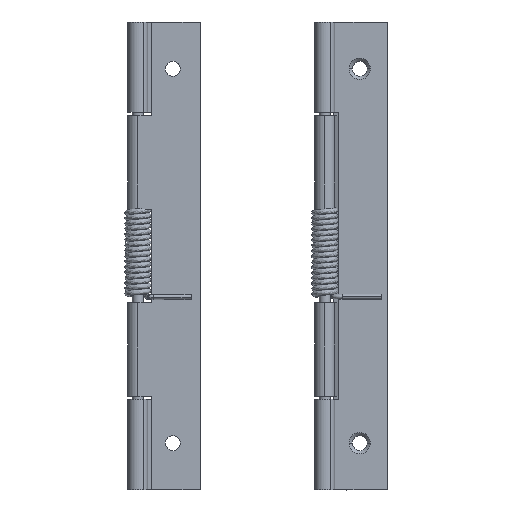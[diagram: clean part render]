
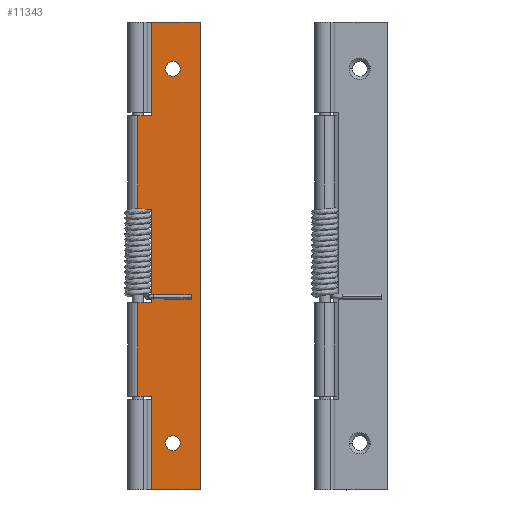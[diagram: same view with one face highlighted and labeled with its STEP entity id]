
A CAD part, top view. The second image highlights one B-rep face of the part: STEP entity #11343.
In plain terms, the highlighted planar face has unit normal (0, 0, 1) as drawn and (0, 0, -1) by its records, which use the part's own axes.
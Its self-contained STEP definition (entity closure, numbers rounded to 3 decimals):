
#10606=CARTESIAN_POINT('',(-2.7,-7.5,-0.35));
#10607=VERTEX_POINT('',#10606);
#10615=CARTESIAN_POINT('',(-2.7,-22.5,-0.35));
#10616=VERTEX_POINT('',#10615);
#10617=CARTESIAN_POINT('',(-2.7,-22.5,-0.35));
#10618=DIRECTION('',(0.0,1.0,0.0));
#10619=VECTOR('',#10618,15.0);
#10620=LINE('',#10617,#10619);
#10621=EDGE_CURVE('',#10616,#10607,#10620,.T.);
#10831=CARTESIAN_POINT('',(-2.7,22.5,-0.35));
#10832=VERTEX_POINT('',#10831);
#10840=CARTESIAN_POINT('',(-2.7,7.5,-0.35));
#10841=VERTEX_POINT('',#10840);
#10842=CARTESIAN_POINT('',(-2.7,7.5,-0.35));
#10843=DIRECTION('',(0.0,1.0,0.0));
#10844=VECTOR('',#10843,15.0);
#10845=LINE('',#10842,#10844);
#10846=EDGE_CURVE('',#10841,#10832,#10845,.T.);
#10896=CARTESIAN_POINT('',(4.1,30.0,-0.35));
#10897=VERTEX_POINT('',#10896);
#10906=CARTESIAN_POINT('',(1.7,30.0,-0.35));
#10907=VERTEX_POINT('',#10906);
#10908=CARTESIAN_POINT('',(2.9,30.0,-0.35));
#10909=DIRECTION('',(0.0,0.0,1.0));
#10910=DIRECTION('',(1.0,0.0,0.0));
#10911=AXIS2_PLACEMENT_3D('',#10908,#10909,#10910);
#10912=CIRCLE('',#10911,1.2);
#10913=EDGE_CURVE('',#10907,#10897,#10912,.T.);
#10970=CARTESIAN_POINT('',(4.1,-30.0,-0.35));
#10971=VERTEX_POINT('',#10970);
#10980=CARTESIAN_POINT('',(1.7,-30.0,-0.35));
#10981=VERTEX_POINT('',#10980);
#10982=CARTESIAN_POINT('',(2.9,-30.0,-0.35));
#10983=DIRECTION('',(0.0,0.0,1.0));
#10984=DIRECTION('',(1.0,0.0,0.0));
#10985=AXIS2_PLACEMENT_3D('',#10982,#10983,#10984);
#10986=CIRCLE('',#10985,1.2);
#10987=EDGE_CURVE('',#10981,#10971,#10986,.T.);
#11071=CARTESIAN_POINT('',(2.9,-30.0,-0.35));
#11072=DIRECTION('',(0.0,0.0,1.0));
#11073=DIRECTION('',(1.0,0.0,0.0));
#11074=AXIS2_PLACEMENT_3D('',#11071,#11072,#11073);
#11075=CIRCLE('',#11074,1.2);
#11076=EDGE_CURVE('',#10971,#10981,#11075,.T.);
#11113=CARTESIAN_POINT('',(2.9,30.0,-0.35));
#11114=DIRECTION('',(0.0,0.0,1.0));
#11115=DIRECTION('',(1.0,0.0,0.0));
#11116=AXIS2_PLACEMENT_3D('',#11113,#11114,#11115);
#11117=CIRCLE('',#11116,1.2);
#11118=EDGE_CURVE('',#10897,#10907,#11117,.T.);
#11128=CARTESIAN_POINT('',(-0.5,-22.5,-0.35));
#11129=VERTEX_POINT('',#11128);
#11130=CARTESIAN_POINT('',(-0.5,-22.5,-0.35));
#11131=DIRECTION('',(-1.0,0.0,0.0));
#11132=VECTOR('',#11131,2.2);
#11133=LINE('',#11130,#11132);
#11134=EDGE_CURVE('',#11129,#10616,#11133,.T.);
#11194=CARTESIAN_POINT('',(-0.5,22.5,-0.35));
#11195=VERTEX_POINT('',#11194);
#11202=CARTESIAN_POINT('',(-2.7,22.5,-0.35));
#11203=DIRECTION('',(1.0,0.0,0.0));
#11204=VECTOR('',#11203,2.2);
#11205=LINE('',#11202,#11204);
#11206=EDGE_CURVE('',#10832,#11195,#11205,.T.);
#11264=CARTESIAN_POINT('',(1.312,0.0,-0.35));
#11265=DIRECTION('',(0.0,0.0,1.0));
#11266=DIRECTION('',(1.0,0.0,0.0));
#11267=AXIS2_PLACEMENT_3D('',#11264,#11265,#11266);
#11268=PLANE('',#11267);
#11269=ORIENTED_EDGE('',*,*,#10621,.T.);
#11270=CARTESIAN_POINT('',(-0.5,-7.5,-0.35));
#11271=VERTEX_POINT('',#11270);
#11272=CARTESIAN_POINT('',(-2.7,-7.5,-0.35));
#11273=DIRECTION('',(1.0,0.0,0.0));
#11274=VECTOR('',#11273,2.2);
#11275=LINE('',#11272,#11274);
#11276=EDGE_CURVE('',#10607,#11271,#11275,.T.);
#11277=ORIENTED_EDGE('',*,*,#11276,.T.);
#11278=CARTESIAN_POINT('',(-0.5,7.5,-0.35));
#11279=VERTEX_POINT('',#11278);
#11280=CARTESIAN_POINT('',(-0.5,-7.5,-0.35));
#11281=DIRECTION('',(0.0,1.0,0.0));
#11282=VECTOR('',#11281,15.);
#11283=LINE('',#11280,#11282);
#11284=EDGE_CURVE('',#11271,#11279,#11283,.T.);
#11285=ORIENTED_EDGE('',*,*,#11284,.T.);
#11286=CARTESIAN_POINT('',(-0.5,7.5,-0.35));
#11287=DIRECTION('',(-1.0,0.0,0.0));
#11288=VECTOR('',#11287,2.2);
#11289=LINE('',#11286,#11288);
#11290=EDGE_CURVE('',#11279,#10841,#11289,.T.);
#11291=ORIENTED_EDGE('',*,*,#11290,.T.);
#11292=ORIENTED_EDGE('',*,*,#10846,.T.);
#11293=ORIENTED_EDGE('',*,*,#11206,.T.);
#11294=CARTESIAN_POINT('',(-0.5,37.5,-0.35));
#11295=VERTEX_POINT('',#11294);
#11296=CARTESIAN_POINT('',(-0.5,22.5,-0.35));
#11297=DIRECTION('',(0.0,1.0,0.0));
#11298=VECTOR('',#11297,15.);
#11299=LINE('',#11296,#11298);
#11300=EDGE_CURVE('',#11195,#11295,#11299,.T.);
#11301=ORIENTED_EDGE('',*,*,#11300,.T.);
#11302=CARTESIAN_POINT('',(7.3,37.5,-0.35));
#11303=VERTEX_POINT('',#11302);
#11304=CARTESIAN_POINT('',(-0.5,37.5,-0.35));
#11305=DIRECTION('',(1.0,0.0,0.0));
#11306=VECTOR('',#11305,7.8);
#11307=LINE('',#11304,#11306);
#11308=EDGE_CURVE('',#11295,#11303,#11307,.T.);
#11309=ORIENTED_EDGE('',*,*,#11308,.T.);
#11310=CARTESIAN_POINT('',(7.3,-37.5,-0.35));
#11311=VERTEX_POINT('',#11310);
#11312=CARTESIAN_POINT('',(7.3,37.5,-0.35));
#11313=DIRECTION('',(0.0,-1.0,0.0));
#11314=VECTOR('',#11313,75.0);
#11315=LINE('',#11312,#11314);
#11316=EDGE_CURVE('',#11303,#11311,#11315,.T.);
#11317=ORIENTED_EDGE('',*,*,#11316,.T.);
#11318=CARTESIAN_POINT('',(-0.5,-37.5,-0.35));
#11319=VERTEX_POINT('',#11318);
#11320=CARTESIAN_POINT('',(7.3,-37.5,-0.35));
#11321=DIRECTION('',(-1.0,0.0,0.0));
#11322=VECTOR('',#11321,7.8);
#11323=LINE('',#11320,#11322);
#11324=EDGE_CURVE('',#11311,#11319,#11323,.T.);
#11325=ORIENTED_EDGE('',*,*,#11324,.T.);
#11326=CARTESIAN_POINT('',(-0.5,-37.5,-0.35));
#11327=DIRECTION('',(0.0,1.0,0.0));
#11328=VECTOR('',#11327,15.);
#11329=LINE('',#11326,#11328);
#11330=EDGE_CURVE('',#11319,#11129,#11329,.T.);
#11331=ORIENTED_EDGE('',*,*,#11330,.T.);
#11332=ORIENTED_EDGE('',*,*,#11134,.T.);
#11333=EDGE_LOOP('',(#11269,#11277,#11285,#11291,#11292,#11293,#11301,#11309,#11317,#11325,#11331,#11332));
#11334=FACE_OUTER_BOUND('',#11333,.T.);
#11335=ORIENTED_EDGE('',*,*,#10987,.T.);
#11336=ORIENTED_EDGE('',*,*,#11076,.T.);
#11337=EDGE_LOOP('',(#11335,#11336));
#11338=FACE_BOUND('',#11337,.T.);
#11339=ORIENTED_EDGE('',*,*,#10913,.T.);
#11340=ORIENTED_EDGE('',*,*,#11118,.T.);
#11341=EDGE_LOOP('',(#11339,#11340));
#11342=FACE_BOUND('',#11341,.T.);
#11343=ADVANCED_FACE('',(#11334,#11338,#11342),#11268,.F.);
